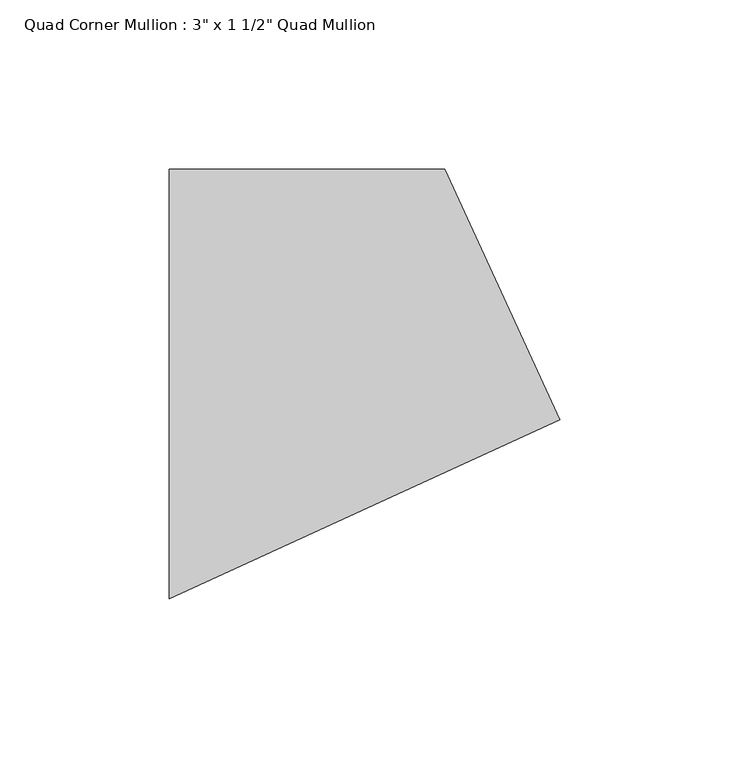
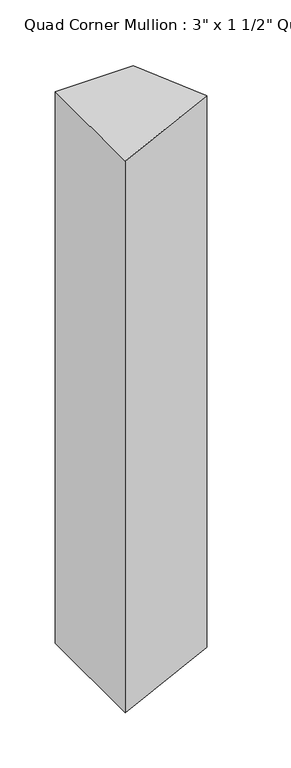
"""IFC4 building model written with IfcOpenShell, lengths in millimetres: member geometry."""

import ifcopenshell
import ifcopenshell.guid

model = None  # the IFC model being written
_history = None  # IfcOwnerHistory: only IFC2X3 demands one
_inside = {}  # id of a spatial element -> (the spatial element, [elements in it])
_under = {}  # id of a project, library or spatial element -> (it, [spatial elements below it])
_declared = {}  # id of a project -> (the project, [libraries it declares])
_typed = {}  # id of a type object -> (the type object, [elements of that type])
_made_of = {}  # id of a material, layer set ... -> (it, [elements and type objects made of it])


def new_model(schema):
    """Start an empty IFC model of exactly this schema.

    Asked for "IFC4X3", IfcOpenShell would pick the latest addendum, in which some entities
    have other attributes; the version numbers below select the first issue.
    IFC2X3 requires an IfcOwnerHistory on every rooted entity: one is made here for all.
    """
    global model, _history
    if schema == "IFC4X3":
        model = ifcopenshell.file(schema_version=(4, 3, 0, 0))
    else:
        model = ifcopenshell.file(schema=schema)
    _inside.clear()
    _under.clear()
    _declared.clear()
    _typed.clear()
    _made_of.clear()
    _history = None
    if model.schema == "IFC2X3":
        org = make("IfcOrganization", Name="unknown")
        user = make(
            "IfcPersonAndOrganization",
            ThePerson=make("IfcPerson", FamilyName="unknown"),
            TheOrganization=org,
        )
        app = make(
            "IfcApplication",
            ApplicationDeveloper=org,
            Version="unknown",
            ApplicationFullName="unknown",
            ApplicationIdentifier="unknown",
        )
        _history = make(
            "IfcOwnerHistory",
            OwningUser=user,
            OwningApplication=app,
            ChangeAction="ADDED",
            CreationDate=0,
        )
    return model


def make(cls, **values):
    """One entity of the class cls with the attributes given. An attribute that is None is left unset."""
    return model.create_entity(
        cls, **{name: value for name, value in values.items() if value is not None}
    )


def rooted(cls, **values):
    """An entity with a GlobalId (a new one), such as an element, a storey or a relation."""
    return make(cls, GlobalId=ifcopenshell.guid.new(), OwnerHistory=_history, **values)


def si_unit(unit_type, name, prefix=None):
    """IfcSIUnit, for example si_unit("LENGTHUNIT", "METRE", prefix="MILLI")."""
    return make("IfcSIUnit", UnitType=unit_type, Prefix=prefix, Name=name)


def assignment(units):
    """IfcUnitAssignment: the units of a project."""
    return None if units is None else make("IfcUnitAssignment", Units=units)


def point(xyz):
    """IfcCartesianPoint."""
    return None if xyz is None else make("IfcCartesianPoint", Coordinates=xyz)


def direction(xyz):
    """IfcDirection."""
    return None if xyz is None else make("IfcDirection", DirectionRatios=xyz)


def frame(location, z_axis=None, x_axis=None):
    """IfcAxis2Placement3D, a coordinate frame: its origin and axes. An axis left out is left unset."""
    return make(
        "IfcAxis2Placement3D",
        Location=point(location),
        Axis=direction(z_axis),
        RefDirection=direction(x_axis),
    )


def origin():
    """The frame at (0, 0, 0) with its axes left unset."""
    return frame((0.0, 0.0, 0.0))


def place(relative_to, where):
    """IfcLocalPlacement: puts the frame where relative to a parent placement (None: the world)."""
    return make(
        "IfcLocalPlacement", PlacementRelTo=relative_to, RelativePlacement=where
    )


def context(
    kind, dimensions, precision=None, world=None, true_north=None, identifier=None
):
    """IfcGeometricRepresentationContext, for example the 3D "Model" context."""
    return make(
        "IfcGeometricRepresentationContext",
        ContextIdentifier=identifier,
        ContextType=kind,
        CoordinateSpaceDimension=dimensions,
        Precision=precision,
        WorldCoordinateSystem=world,
        TrueNorth=true_north,
    )


def project(units=None, contexts=None):
    """IfcProject with its units and contexts."""
    return rooted(
        "IfcProject",
        Name="project",
        RepresentationContexts=contexts,
        UnitsInContext=assignment(units),
    )


def spatial(cls, under=None, at=None, **own):
    """A site, building, storey or space (cls), placed at a placement, below another one or the project."""
    s = rooted(cls, ObjectPlacement=at, **own)
    if under is not None:
        _under.setdefault(under.id(), (under, []))[1].append(s)
    return s


def polyline(points):
    """IfcPolyline through the points."""
    return make("IfcPolyline", Points=[point(p) for p in points])


def outline(outer, holes=None, kind="AREA"):
    """IfcArbitraryClosedProfileDef: a profile drawn as a closed curve; with holes, ...WithVoids."""
    if holes is None:
        return make("IfcArbitraryClosedProfileDef", ProfileType=kind, OuterCurve=outer)
    return make(
        "IfcArbitraryProfileDefWithVoids",
        ProfileType=kind,
        OuterCurve=outer,
        InnerCurves=holes,
    )


def extrude(swept, where, along, depth):
    """IfcExtrudedAreaSolid: the profile swept, set in the frame where, extruded along a direction by depth."""
    return make(
        "IfcExtrudedAreaSolid",
        SweptArea=swept,
        Position=where,
        ExtrudedDirection=direction(along),
        Depth=depth,
    )


def shape(context_of_items, identifier, shape_type, items):
    """IfcShapeRepresentation: the items that make up one representation, for example the "Body"."""
    return make(
        "IfcShapeRepresentation",
        ContextOfItems=context_of_items,
        RepresentationIdentifier=identifier,
        RepresentationType=shape_type,
        Items=items,
    )


def source(mapping_origin, context_of_items, identifier, shape_type, items):
    """IfcRepresentationMap: a shape defined once, which mapped items show again and again."""
    return make(
        "IfcRepresentationMap",
        MappingOrigin=mapping_origin,
        MappedRepresentation=shape(context_of_items, identifier, shape_type, items),
    )


def transform(
    local_origin,
    x_axis=None,
    y_axis=None,
    z_axis=None,
    scale=None,
    scale2=None,
    scale3=None,
    uniform=True,
):
    """IfcCartesianTransformationOperator3D, or its non-uniform kind. x_axis, y_axis, z_axis: its Axis1, 2, 3."""
    if uniform:
        return make(
            "IfcCartesianTransformationOperator3D",
            Axis1=direction(x_axis),
            Axis2=direction(y_axis),
            LocalOrigin=point(local_origin),
            Scale=scale,
            Axis3=direction(z_axis),
        )
    return make(
        "IfcCartesianTransformationOperator3DnonUniform",
        Axis1=direction(x_axis),
        Axis2=direction(y_axis),
        LocalOrigin=point(local_origin),
        Scale=scale,
        Axis3=direction(z_axis),
        Scale2=scale2,
        Scale3=scale3,
    )


def mapped(mapping_source, mapping_target):
    """IfcMappedItem: shows the shape of a source again, moved by a transform."""
    return make(
        "IfcMappedItem", MappingSource=mapping_source, MappingTarget=mapping_target
    )


def made_of(thing, what):
    """Note that an element or type object is made of a material, layer set ...; save() writes the relation."""
    if what is not None:
        _made_of.setdefault(what.id(), (what, []))[1].append(thing)
    return thing


def element(
    cls,
    number,
    at=None,
    inside=None,
    cuts=None,
    type_object=None,
    material=None,
    context=None,
    identifier="Body",
    shape_type=None,
    held_by="IfcProductDefinitionShape",
    body=None,
    shapes=None,
    **own,
):
    """One element of the class cls, such as IfcWall. Its Tag is "e" and its number.

    at: its placement. inside: the storey or other place that contains it. cuts: it is an
    opening in that element (IfcRelVoidsElement). A single representation is given by context,
    identifier, shape_type and body (its items); several are given by shapes. held_by: the class
    of the entity that holds the representations. save() writes the other relations.
    """
    e = rooted(cls, Tag="e%d" % number, ObjectPlacement=at, **own)
    if body is not None:
        shapes = [shape(context, identifier, shape_type, body)]
    if shapes is not None:
        e.Representation = make(held_by, Representations=shapes)
    if inside is not None:
        _inside.setdefault(inside.id(), (inside, []))[1].append(e)
    if cuts is not None:
        rooted(
            "IfcRelVoidsElement", RelatingBuildingElement=cuts, RelatedOpeningElement=e
        )
    if type_object is not None:
        _typed.setdefault(type_object.id(), (type_object, []))[1].append(e)
    return made_of(e, material)


def aggregate(whole, parts):
    """IfcRelAggregates: a whole, such as a stair, and the parts it consists of."""
    return rooted("IfcRelAggregates", RelatingObject=whole, RelatedObjects=parts)


def save(model, path):
    """Write the relations noted so far, then the file.

    IfcRelAggregates (storeys below a building ...), IfcRelContainedInSpatialStructure (elements
    in a storey), IfcRelDefinesByType, IfcRelAssociatesMaterial and IfcRelDeclares: one each for
    every whole, place, type object, material and project.
    """
    for whole, parts in _under.values():
        aggregate(whole, parts)
    for where, things in _inside.values():
        rooted(
            "IfcRelContainedInSpatialStructure",
            RelatedElements=things,
            RelatingStructure=where,
        )
    for kind, things in _typed.values():
        rooted("IfcRelDefinesByType", RelatedObjects=things, RelatingType=kind)
    for what, things in _made_of.values():
        rooted("IfcRelAssociatesMaterial", RelatedObjects=things, RelatingMaterial=what)
    for by, libraries in _declared.values():
        rooted("IfcRelDeclares", RelatingContext=by, RelatedDefinitions=libraries)
    model.write(path)


def member_c4478095(model_context):
    return source(origin(), model_context, "Body", "SweptSolid", [
        extrude(outline(polyline([(74.7078921, -10.6493518), (-40.7728811, -63.5), (-40.7728811, 63.5), (40.7728811, 63.5), (74.7078921, -10.6493518)])), frame((0.0, 0.0, -609.6), z_axis=(0.0, 0.0, 1.0), x_axis=(1.0, 0.0, 0.0)), (0.0, 0.0, 1.0), 609.6),
    ])


if __name__ == "__main__":
    model = new_model("IFC4")
    model_context = context("Model", 3, world=origin())
    ifc_project = project(units=[si_unit("LENGTHUNIT", "METRE", prefix="MILLI")], contexts=[model_context])
    site = spatial("IfcSite", under=ifc_project)
    building = spatial("IfcBuilding", under=site)
    placement = place(None, origin())
    member_shape = member_c4478095(model_context)
    element("IfcMember", 1, ObjectType="Quad Corner Mullion : 3\" x 1 1/2\" Quad Mullion", at=placement, inside=building, context=model_context, shape_type="MappedRepresentation", body=[
        mapped(member_shape, transform((0.0, 0.0, 0.0), x_axis=(1.0, 0.0, 0.0), y_axis=(0.0, 1.0, 0.0), z_axis=(0.0, 0.0, 1.0))),
    ])
    save(model, "model.ifc")
